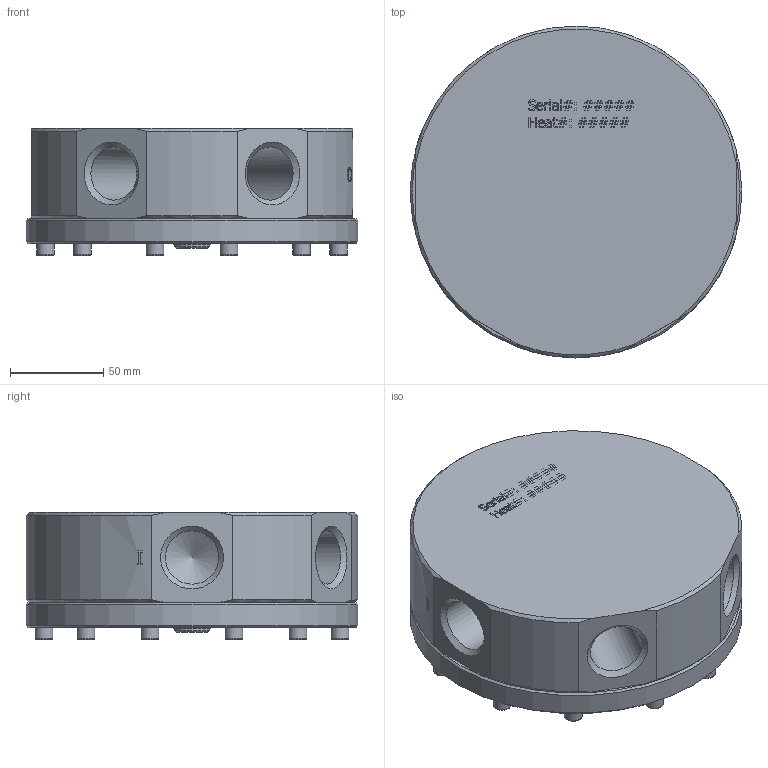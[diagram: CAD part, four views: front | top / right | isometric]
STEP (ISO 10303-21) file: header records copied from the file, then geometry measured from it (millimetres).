
FILE_DESCRIPTION(/* description */ (''),/* implementation_level */ '2;1');
FILE_NAME(/* name */ 'C:\Users\mkowall\Equilibar Network Dropbox\Models\GS(D) Series\GS8\GSD8 External Assembly.stp',/* time_stamp */ '2022-07-20T13:38:34-04:00',/* author */ ('mkowall'),/* organization */ (''),/* preprocessor_version */ 'ST-DEVELOPER v18.1',/* originating_system */ 'Autodesk Inventor 2021',/* authorisation */ '');
FILE_SCHEMA (('AUTOMOTIVE_DESIGN { 1 0 10303 214 3 1 1 }'));
Length unit declared in the file: inch
Products named in the file (1): GSD8SNT5 Assembly_Shrinkwrap_1
Bounding box: 177.8 x 177.8 x 68.07 mm (x, y, z)
Volume: 1215702.8 mm3; surface area: 182800.2 mm2
Topology: 14 solids, 14 shells, 1429 faces, 3886 edges, 2587 vertices
Faces by surface type: plane 1148, bspline 144, cylinder 58, cone 48, torus 31
Full cylindrical faces by diameter (mm): 6.35 x12, 6.528 x12, 7.95 x1, 9.525 x12, 19.05 x1, 28.575 x6, 130.302 x1, 137.389 x1, 143.002 x1, 150.012 x1, 177.8 x1
Entity records: 47186 total; most frequent: CARTESIAN_POINT 10575, ORIENTED_EDGE 7742, DIRECTION 6323, EDGE_CURVE 3871, LINE 3207, VECTOR 3207, VERTEX_POINT 2587, EDGE_LOOP 1576
